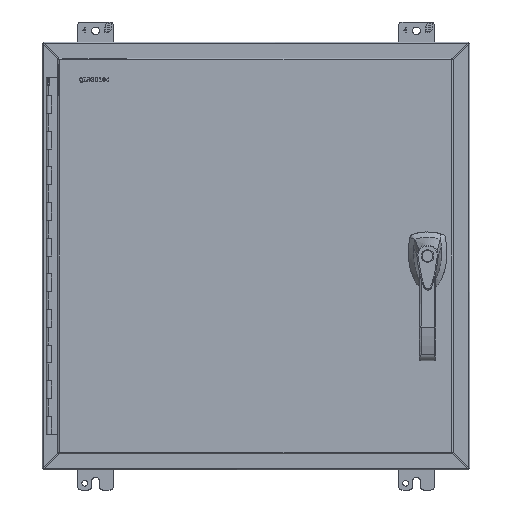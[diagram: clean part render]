
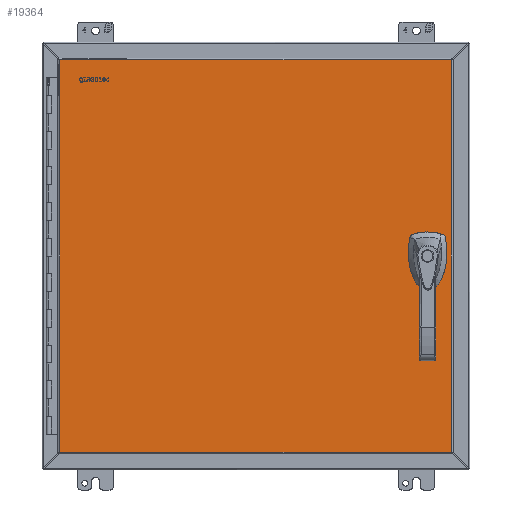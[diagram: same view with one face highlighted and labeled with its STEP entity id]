
A CAD part, front view. The second image highlights one B-rep face of the part: STEP entity #19364.
In plain terms, the highlighted planar face has unit normal (0, -1, 0).
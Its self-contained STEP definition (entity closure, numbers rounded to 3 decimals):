
#2159=LINE('',#28872,#3858);
#2160=LINE('',#28875,#3859);
#2161=LINE('',#28877,#3860);
#2162=LINE('',#28879,#3861);
#2163=LINE('',#28880,#3862);
#2164=LINE('',#28885,#3863);
#2165=LINE('',#28889,#3864);
#2166=LINE('',#28893,#3865);
#3858=VECTOR('',#23383,1000.);
#3859=VECTOR('',#23384,1000.);
#3860=VECTOR('',#23385,1000.);
#3861=VECTOR('',#23386,1000.);
#3862=VECTOR('',#23387,1000.);
#3863=VECTOR('',#23390,1000.);
#3864=VECTOR('',#23393,1000.);
#3865=VECTOR('',#23396,1000.);
#7220=ORIENTED_EDGE('',*,*,#11767,.T.);
#7221=ORIENTED_EDGE('',*,*,#11768,.T.);
#7222=ORIENTED_EDGE('',*,*,#11769,.T.);
#7223=ORIENTED_EDGE('',*,*,#11770,.T.);
#7224=ORIENTED_EDGE('',*,*,#11771,.T.);
#7225=ORIENTED_EDGE('',*,*,#11772,.T.);
#7226=ORIENTED_EDGE('',*,*,#11773,.T.);
#7227=ORIENTED_EDGE('',*,*,#11774,.T.);
#7228=ORIENTED_EDGE('',*,*,#11775,.T.);
#7229=ORIENTED_EDGE('',*,*,#11776,.T.);
#7230=ORIENTED_EDGE('',*,*,#11777,.T.);
#7231=ORIENTED_EDGE('',*,*,#11778,.T.);
#7232=ORIENTED_EDGE('',*,*,#11779,.T.);
#11767=EDGE_CURVE('',#14176,#14176,#15571,.T.);
#11768=EDGE_CURVE('',#14177,#14178,#2159,.T.);
#11769=EDGE_CURVE('',#14178,#14179,#2160,.T.);
#11770=EDGE_CURVE('',#14179,#14180,#2161,.T.);
#11771=EDGE_CURVE('',#14180,#14177,#2162,.T.);
#11772=EDGE_CURVE('',#14181,#14182,#2163,.T.);
#11773=EDGE_CURVE('',#14182,#14183,#15572,.T.);
#11774=EDGE_CURVE('',#14183,#14184,#2164,.T.);
#11775=EDGE_CURVE('',#14184,#14185,#15573,.T.);
#11776=EDGE_CURVE('',#14185,#14186,#2165,.T.);
#11777=EDGE_CURVE('',#14186,#14187,#15574,.T.);
#11778=EDGE_CURVE('',#14187,#14188,#2166,.T.);
#11779=EDGE_CURVE('',#14188,#14181,#15575,.T.);
#14176=VERTEX_POINT('',#28871);
#14177=VERTEX_POINT('',#28873);
#14178=VERTEX_POINT('',#28874);
#14179=VERTEX_POINT('',#28876);
#14180=VERTEX_POINT('',#28878);
#14181=VERTEX_POINT('',#28881);
#14182=VERTEX_POINT('',#28882);
#14183=VERTEX_POINT('',#28884);
#14184=VERTEX_POINT('',#28886);
#14185=VERTEX_POINT('',#28888);
#14186=VERTEX_POINT('',#28890);
#14187=VERTEX_POINT('',#28892);
#14188=VERTEX_POINT('',#28894);
#15571=CIRCLE('',#20740,4.242);
#15572=CIRCLE('',#20741,11.24);
#15573=CIRCLE('',#20742,11.24);
#15574=CIRCLE('',#20743,11.24);
#15575=CIRCLE('',#20744,11.24);
#16276=EDGE_LOOP('',(#7220));
#16277=EDGE_LOOP('',(#7221,#7222,#7223,#7224));
#16278=EDGE_LOOP('',(#7225,#7226,#7227,#7228,#7229,#7230,#7231,#7232));
#17520=FACE_BOUND('',#16276,.T.);
#17521=FACE_BOUND('',#16277,.T.);
#17522=FACE_BOUND('',#16278,.T.);
#18622=PLANE('',#20739);
#19364=ADVANCED_FACE('',(#17520,#17521,#17522),#18622,.T.);
#20739=AXIS2_PLACEMENT_3D('',#28869,#23379,#23380);
#20740=AXIS2_PLACEMENT_3D('',#28870,#23381,#23382);
#20741=AXIS2_PLACEMENT_3D('',#28883,#23388,#23389);
#20742=AXIS2_PLACEMENT_3D('',#28887,#23391,#23392);
#20743=AXIS2_PLACEMENT_3D('',#28891,#23394,#23395);
#20744=AXIS2_PLACEMENT_3D('',#28895,#23397,#23398);
#23379=DIRECTION('',(0.,-1.,0.));
#23380=DIRECTION('',(0.,0.,-1.));
#23381=DIRECTION('',(0.,1.,0.));
#23382=DIRECTION('',(1.,0.,0.));
#23383=DIRECTION('',(0.,0.,-1.));
#23384=DIRECTION('',(1.,0.,0.));
#23385=DIRECTION('',(0.,0.,1.));
#23386=DIRECTION('',(-1.,0.,0.));
#23387=DIRECTION('',(0.,0.,1.));
#23388=DIRECTION('',(0.,1.,0.));
#23389=DIRECTION('',(1.,0.,0.));
#23390=DIRECTION('',(1.,0.,0.));
#23391=DIRECTION('',(0.,1.,0.));
#23392=DIRECTION('',(1.,0.,0.));
#23393=DIRECTION('',(0.,0.,-1.));
#23394=DIRECTION('',(0.,1.,0.));
#23395=DIRECTION('',(1.,0.,0.));
#23396=DIRECTION('',(-1.,0.,0.));
#23397=DIRECTION('',(0.,1.,0.));
#23398=DIRECTION('',(1.,0.,0.));
#28869=CARTESIAN_POINT('',(-279.044,0.,-279.26));
#28870=CARTESIAN_POINT('',(245.262,0.,-33.985));
#28871=CARTESIAN_POINT('',(249.504,0.,-33.985));
#28872=CARTESIAN_POINT('',(-279.044,0.,279.26));
#28873=CARTESIAN_POINT('',(-279.044,0.,279.26));
#28874=CARTESIAN_POINT('',(-279.044,0.,-279.26));
#28875=CARTESIAN_POINT('',(-279.044,0.,-279.26));
#28876=CARTESIAN_POINT('',(279.044,0.,-279.26));
#28877=CARTESIAN_POINT('',(279.044,0.,-279.26));
#28878=CARTESIAN_POINT('',(279.044,0.,279.26));
#28879=CARTESIAN_POINT('',(279.044,0.,279.26));
#28880=CARTESIAN_POINT('',(235.217,0.,-5.041));
#28881=CARTESIAN_POINT('',(235.217,0.,-5.041));
#28882=CARTESIAN_POINT('',(235.217,0.,5.041));
#28883=CARTESIAN_POINT('',(245.262,0.,0.));
#28884=CARTESIAN_POINT('',(240.222,0.,10.046));
#28885=CARTESIAN_POINT('',(240.222,0.,10.046));
#28886=CARTESIAN_POINT('',(250.303,0.,10.046));
#28887=CARTESIAN_POINT('',(245.262,0.,0.));
#28888=CARTESIAN_POINT('',(255.308,0.,5.041));
#28889=CARTESIAN_POINT('',(255.308,0.,5.041));
#28890=CARTESIAN_POINT('',(255.308,0.,-5.041));
#28891=CARTESIAN_POINT('',(245.262,0.,0.));
#28892=CARTESIAN_POINT('',(250.303,0.,-10.046));
#28893=CARTESIAN_POINT('',(250.303,0.,-10.046));
#28894=CARTESIAN_POINT('',(240.222,0.,-10.046));
#28895=CARTESIAN_POINT('',(245.262,0.,0.));
